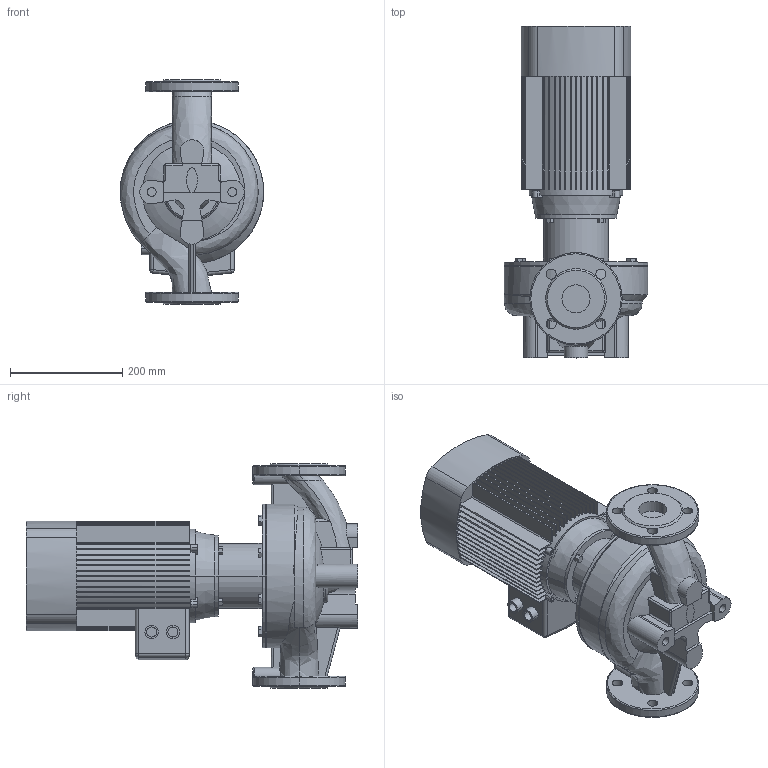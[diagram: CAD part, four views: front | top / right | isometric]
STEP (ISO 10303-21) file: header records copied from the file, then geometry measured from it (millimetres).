
FILE_DESCRIPTION (( 'STEP AP203' ), '1' );
FILE_NAME ('TD50-32G_2.STEP', '2022-05-02T14:53:18', ( '' ), ( '' ), 'SwSTEP 2.0', 'SolidWorks 2019', '' );
FILE_SCHEMA (( 'CONFIG_CONTROL_DESIGN' ));
Length unit declared in the file: millimetre
Products named in the file (4): ED_B14_YE2-100L-2 (3); TD50-32G_2; Fon_50_TD50-32G_2; Pr_ch 50_TD50-32G_2
Assembly tree (3 placements, depth 2):
  TD50-32G_2
    Pr_ch 50_TD50-32G_2
    Fon_50_TD50-32G_2
    ED_B14_YE2-100L-2 (3)
Bounding box: 256 x 592 x 400 mm (x, y, z)
Volume: 17015361.7 mm3; surface area: 1190608.2 mm2
Topology: 3 solids, 3 shells, 647 faces, 1766 edges, 1160 vertices
Faces by surface type: plane 424, cylinder 157, torus 25, bspline 24, cone 11, sphere 6
Entity records: 26555 total; most frequent: CARTESIAN_POINT 9579, ORIENTED_EDGE 3528, DIRECTION 3440, EDGE_CURVE 1764, AXIS2_PLACEMENT_3D 1211, VERTEX_POINT 1160, VECTOR 1018, LINE 1018
